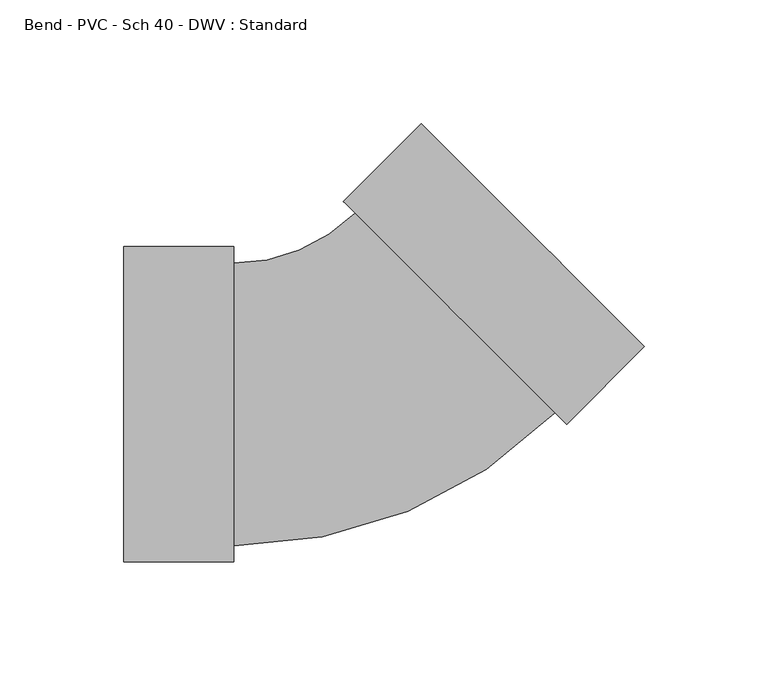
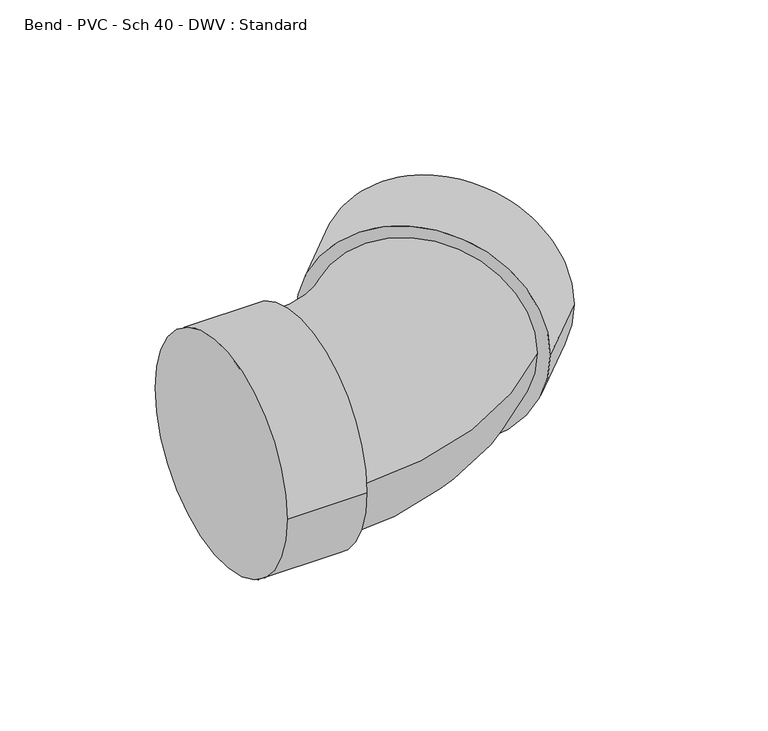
"""IFC4 building model written with IfcOpenShell, lengths in millimetres: pipe fitting geometry, Bend - PVC - Sch 40 - DWV : Standard."""

from ifc_helpers import new_model, si_unit, point, frame, origin, place, context, project, spatial, circle_curve, ellipse_curve, trimmed, source, transform, mapped, element, save
from ifc_brep_helpers import plane_surface, cylinder_surface, revolved_surface, advanced_brep


def bend_pvc_sch_40_dwv_standard_09977113(model_context):
    return source(origin(), model_context, "Body", "AdvancedBrep", [
        advanced_brep(
        [(-96.8502, -63.754, 0.0), (-96.8502, 63.754, 0.0), (-52.4002, -63.754, 0.0), (-52.4002, 63.754, 0.0), (-52.4002, -57.15, 0.0), (-52.4002, 57.15, 0.0), (-3.362818, 77.463507, 0.0), (77.4638714, -3.3544136, 0.0), (82.1338579, -8.0238934, 0.0), (-8.0328045, 82.1329868, 0.0), (113.5630492, 23.408708, 0.0), (23.3963868, 113.5655883, 0.0)],
        [
            (0, 1, circle_curve(frame((-96.8502, 0.0, 0.0), z_axis=(-1.0, 0.0, 0.0), x_axis=(0.0, 1.0, 0.0)), 63.754)),
            (1, 0, circle_curve(frame((-96.8502, 0.0, 0.0), z_axis=(-1.0, 0.0, 0.0), x_axis=(0.0, 1.0, 0.0)), 63.754)),
            (2, 3, circle_curve(frame((-52.4002, 0.0, 0.0), z_axis=(1.0, 0.0, 0.0), x_axis=(0.0, 1.0, 0.0)), 63.754)),
            (3, 2, circle_curve(frame((-52.4002, 0.0, 0.0), z_axis=(1.0, 0.0, 0.0), x_axis=(0.0, 1.0, 0.0)), 63.754)),
            (4, 5, circle_curve(frame((-52.4002, 0.0, 0.0), z_axis=(-1.0, 0.0, 0.0), x_axis=(0.0, 1.0, 0.0)), 57.15)),
            (5, 4, circle_curve(frame((-52.4002, 0.0, 0.0), z_axis=(-1.0, 0.0, 0.0), x_axis=(0.0, 1.0, 0.0)), 57.15)),
            (0, 2),
            (3, 1),
            (6, 5, circle_curve(frame((-52.4002, 126.495569, 0.0), z_axis=(0.0, 0.0, -1.0), x_axis=(0.0, -1.0, 0.0)), 69.345569)),
            (4, 7, circle_curve(frame((-52.4002, 126.495569, 0.0), z_axis=(0.0, 0.0, 1.0), x_axis=(0.0, -1.0, 0.0)), 183.645569)),
            (7, 6, circle_curve(frame((37.0505267, 37.0545467, 0.0), z_axis=(-0.7070684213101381, -0.7071451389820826, 0.0), x_axis=(-0.7071451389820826, 0.7070684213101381, 0.0)), 57.15)),
            (6, 7, circle_curve(frame((37.0505267, 37.0545467, 0.0), z_axis=(-0.7070684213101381, -0.7071451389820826, 0.0), x_axis=(-0.7071451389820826, 0.7070684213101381, 0.0)), 57.15)),
            (8, 9, circle_curve(frame((37.0505267, 37.0545467, 0.0), z_axis=(-0.7070684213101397, -0.7071451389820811, 0.0), x_axis=(-0.7071451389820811, 0.7070684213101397, 0.0)), 63.754)),
            (9, 8, circle_curve(frame((37.0505267, 37.0545467, 0.0), z_axis=(-0.7070684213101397, -0.7071451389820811, 0.0), x_axis=(-0.7071451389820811, 0.7070684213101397, 0.0)), 63.754)),
            (10, 11, circle_curve(frame((68.479718, 68.4871481, 0.0), z_axis=(0.7070684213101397, 0.7071451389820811, 0.0), x_axis=(-0.7071451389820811, 0.7070684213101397, 0.0)), 63.754)),
            (11, 10, circle_curve(frame((68.479718, 68.4871481, 0.0), z_axis=(0.7070684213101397, 0.7071451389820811, 0.0), x_axis=(-0.7071451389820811, 0.7070684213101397, 0.0)), 63.754)),
            (8, 10),
            (11, 9),
        ],
        [
            plane_surface(frame((-96.8502, 0.0, 0.0), z_axis=(-1.0, 0.0, 0.0), x_axis=(0.0, 0.0, 1.0))),
            plane_surface(frame((-52.4002, 0.0, 0.0), z_axis=(1.0, 0.0, 0.0), x_axis=(0.0, 0.0, 1.0))),
            cylinder_surface(frame((-96.8502, 0.0, 0.0), z_axis=(-1.0, 0.0, 0.0), x_axis=(0.0, 1.0, 0.0)), 63.754),
            revolved_surface(trimmed(ellipse_curve(frame((-52.4002, 0.0, 0.0), z_axis=(-1.0, 0.0, 0.0), x_axis=(0.0, 1.0, 0.0)), 57.15, 57.15), [point((-52.4002, -57.15, 0.0))], [point((-52.4002, 57.15, 0.0))], True, "CARTESIAN"), (-52.4002, 126.495569, 0.0), (0.0, 0.0, 1.0)),
            revolved_surface(trimmed(ellipse_curve(frame((-52.4002, 0.0, 0.0), z_axis=(-1.0, 0.0, 0.0), x_axis=(0.0, 1.0, 0.0)), 57.15, 57.15), [point((-52.4002, 57.15, 0.0))], [point((-52.4002, -57.15, 0.0))], True, "CARTESIAN"), (-52.4002, 126.495569, 0.0), (0.0, 0.0, 1.0)),
            plane_surface(frame((37.0505267, 37.0545467, 0.0), z_axis=(-0.7070684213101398, -0.7071451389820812, 0.0), x_axis=(0.0, 0.0, 1.0))),
            plane_surface(frame((68.479718, 68.4871481, 0.0), z_axis=(0.7070684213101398, 0.7071451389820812, 0.0), x_axis=(0.0, 0.0, 1.0))),
            cylinder_surface(frame((37.0505267, 37.0545467, 0.0), z_axis=(-0.7070684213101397, -0.7071451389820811, 0.0), x_axis=(-0.7071451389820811, 0.7070684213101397, 0.0)), 63.754),
        ],
        [
            (0, [[1, 2]]),
            (1, [[3, 4], [5, 6]]),
            (2, [[-1, 7, -4, 8]]),
            (2, [[-2, -8, -3, -7]]),
            (3, [[9, -5, 10, 11]]),
            (4, [[-9, 12, -10, -6]]),
            (5, [[13, 14], [-11, -12]]),
            (6, [[15, 16]]),
            (7, [[-13, 17, -16, 18]]),
            (7, [[-14, -18, -15, -17]]),
        ],
    ),
    ])


if __name__ == "__main__":
    model = new_model("IFC4")
    model_context = context("Model", 3, world=origin())
    ifc_project = project(units=[si_unit("LENGTHUNIT", "METRE", prefix="MILLI")], contexts=[model_context])
    site = spatial("IfcSite", under=ifc_project)
    building = spatial("IfcBuilding", under=site)
    placement = place(None, origin())
    bend_pvc_sch_40_dwv_standard_shape = bend_pvc_sch_40_dwv_standard_09977113(model_context)
    element("IfcPipeFitting", 1, ObjectType="Bend - PVC - Sch 40 - DWV : Standard", at=placement, inside=building, context=model_context, shape_type="MappedRepresentation", body=[
        mapped(bend_pvc_sch_40_dwv_standard_shape, transform((0.0, 0.0, 0.0), x_axis=(1.0, 0.0, 0.0), y_axis=(0.0, 1.0, 0.0), z_axis=(0.0, 0.0, 1.0))),
    ])
    save(model, "model.ifc")
